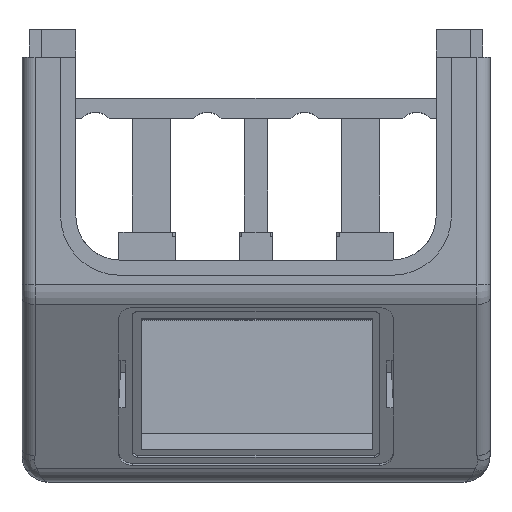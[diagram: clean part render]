
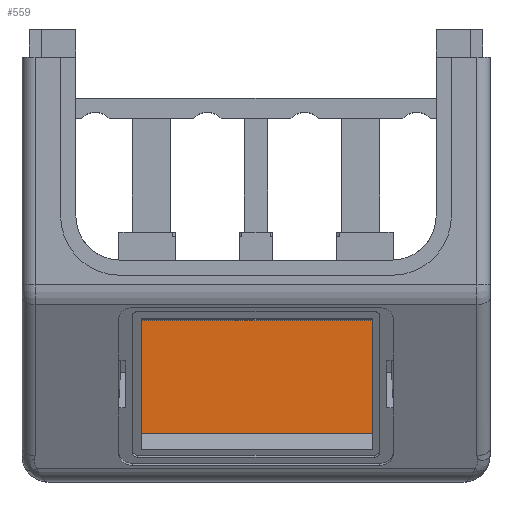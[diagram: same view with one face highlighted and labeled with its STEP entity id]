
A CAD part, top view. The second image highlights one B-rep face of the part: STEP entity #559.
In plain terms, the highlighted planar face has unit normal (0, 0, 1).
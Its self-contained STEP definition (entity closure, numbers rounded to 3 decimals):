
#42 = VERTEX_POINT('',#43);
#43 = CARTESIAN_POINT('',(-107.5,17.,165.195));
#50 = CYLINDRICAL_SURFACE('',#51,12.);
#51 = AXIS2_PLACEMENT_3D('',#52,#53,#54);
#52 = CARTESIAN_POINT('',(-95.5,17.,-6.));
#53 = DIRECTION('',(0.,0.,1.));
#54 = DIRECTION('',(-1.,-0.,0.));
#62 = PLANE('',#63);
#63 = AXIS2_PLACEMENT_3D('',#64,#65,#66);
#64 = CARTESIAN_POINT('',(-107.5,243.933,169.571));
#65 = DIRECTION('',(-1.,-0.,-0.));
#66 = DIRECTION('',(0.,0.,-1.));
#104 = VERTEX_POINT('',#105);
#105 = CARTESIAN_POINT('',(-95.5,5.,165.195));
#119 = PLANE('',#120);
#120 = AXIS2_PLACEMENT_3D('',#121,#122,#123);
#121 = CARTESIAN_POINT('',(-107.5,5.,-6.));
#122 = DIRECTION('',(0.,-1.,0.));
#123 = DIRECTION('',(0.,0.,1.));
#131 = EDGE_CURVE('',#42,#104,#132,.T.);
#132 = SURFACE_CURVE('',#133,(#138,#145),.PCURVE_S1.);
#133 = CIRCLE('',#134,12.);
#134 = AXIS2_PLACEMENT_3D('',#135,#136,#137);
#135 = CARTESIAN_POINT('',(-95.5,17.,165.195));
#136 = DIRECTION('',(0.,0.,1.));
#137 = DIRECTION('',(-1.,-0.,0.));
#138 = PCURVE('',#50,#139);
#139 = DEFINITIONAL_REPRESENTATION('',(#140),#144);
#140 = LINE('',#141,#142);
#141 = CARTESIAN_POINT('',(0.,171.195));
#142 = VECTOR('',#143,1.);
#143 = DIRECTION('',(1.,0.));
#144 = ( GEOMETRIC_REPRESENTATION_CONTEXT(2) 
PARAMETRIC_REPRESENTATION_CONTEXT() REPRESENTATION_CONTEXT('2D SPACE',''
  ) );
#145 = PCURVE('',#146,#151);
#146 = PLANE('',#147);
#147 = AXIS2_PLACEMENT_3D('',#148,#149,#150);
#148 = CARTESIAN_POINT('',(-108.5,4.,165.195));
#149 = DIRECTION('',(0.,0.,1.));
#150 = DIRECTION('',(1.,0.,-0.));
#151 = DEFINITIONAL_REPRESENTATION('',(#152),#156);
#152 = CIRCLE('',#153,12.);
#153 = AXIS2_PLACEMENT_2D('',#154,#155);
#154 = CARTESIAN_POINT('',(13.,13.));
#155 = DIRECTION('',(-1.,0.));
#156 = ( GEOMETRIC_REPRESENTATION_CONTEXT(2) 
PARAMETRIC_REPRESENTATION_CONTEXT() REPRESENTATION_CONTEXT('2D SPACE',''
  ) );
#184 = EDGE_CURVE('',#42,#185,#187,.T.);
#185 = VERTEX_POINT('',#186);
#186 = CARTESIAN_POINT('',(-107.5,79.515,165.195));
#187 = SURFACE_CURVE('',#188,(#192,#198),.PCURVE_S1.);
#188 = LINE('',#189,#190);
#189 = CARTESIAN_POINT('',(-107.5,123.966,165.195));
#190 = VECTOR('',#191,1.);
#191 = DIRECTION('',(0.,1.,0.));
#192 = PCURVE('',#62,#193);
#193 = DEFINITIONAL_REPRESENTATION('',(#194),#197);
#194 = B_SPLINE_CURVE_WITH_KNOTS('',1,(#195,#196),.UNSPECIFIED.,.F.,.F.,
  (2,2),(-106.966,-44.451),.PIECEWISE_BEZIER_KNOTS.);
#195 = CARTESIAN_POINT('',(4.376,226.933));
#196 = CARTESIAN_POINT('',(4.376,164.418));
#197 = ( GEOMETRIC_REPRESENTATION_CONTEXT(2) 
PARAMETRIC_REPRESENTATION_CONTEXT() REPRESENTATION_CONTEXT('2D SPACE',''
  ) );
#198 = PCURVE('',#146,#199);
#199 = DEFINITIONAL_REPRESENTATION('',(#200),#204);
#200 = LINE('',#201,#202);
#201 = CARTESIAN_POINT('',(1.,119.966));
#202 = VECTOR('',#203,1.);
#203 = DIRECTION('',(0.,1.));
#204 = ( GEOMETRIC_REPRESENTATION_CONTEXT(2) 
PARAMETRIC_REPRESENTATION_CONTEXT() REPRESENTATION_CONTEXT('2D SPACE',''
  ) );
#222 = PLANE('',#223);
#223 = AXIS2_PLACEMENT_3D('',#224,#225,#226);
#224 = CARTESIAN_POINT('',(-108.5,79.515,165.195));
#225 = DIRECTION('',(0.,1.,0.));
#226 = DIRECTION('',(0.,-0.,1.));
#559 = ADVANCED_FACE('',(#560),#146,.T.);
#560 = FACE_BOUND('',#561,.T.);
#561 = EDGE_LOOP('',(#562,#563,#564,#586,#615,#642));
#562 = ORIENTED_EDGE('',*,*,#184,.F.);
#563 = ORIENTED_EDGE('',*,*,#131,.T.);
#564 = ORIENTED_EDGE('',*,*,#565,.F.);
#565 = EDGE_CURVE('',#566,#104,#568,.T.);
#566 = VERTEX_POINT('',#567);
#567 = CARTESIAN_POINT('',(95.5,5.,165.195));
#568 = SURFACE_CURVE('',#569,(#573,#580),.PCURVE_S1.);
#569 = LINE('',#570,#571);
#570 = CARTESIAN_POINT('',(-108.,5.,165.195));
#571 = VECTOR('',#572,1.);
#572 = DIRECTION('',(-1.,0.,0.));
#573 = PCURVE('',#146,#574);
#574 = DEFINITIONAL_REPRESENTATION('',(#575),#579);
#575 = LINE('',#576,#577);
#576 = CARTESIAN_POINT('',(0.5,1.));
#577 = VECTOR('',#578,1.);
#578 = DIRECTION('',(-1.,0.));
#579 = ( GEOMETRIC_REPRESENTATION_CONTEXT(2) 
PARAMETRIC_REPRESENTATION_CONTEXT() REPRESENTATION_CONTEXT('2D SPACE',''
  ) );
#580 = PCURVE('',#119,#581);
#581 = DEFINITIONAL_REPRESENTATION('',(#582),#585);
#582 = B_SPLINE_CURVE_WITH_KNOTS('',1,(#583,#584),.UNSPECIFIED.,.F.,.F.,
  (2,2),(-203.5,-12.5),.PIECEWISE_BEZIER_KNOTS.);
#583 = CARTESIAN_POINT('',(171.195,-203.));
#584 = CARTESIAN_POINT('',(171.195,-12.));
#585 = ( GEOMETRIC_REPRESENTATION_CONTEXT(2) 
PARAMETRIC_REPRESENTATION_CONTEXT() REPRESENTATION_CONTEXT('2D SPACE',''
  ) );
#586 = ORIENTED_EDGE('',*,*,#587,.T.);
#587 = EDGE_CURVE('',#566,#588,#590,.T.);
#588 = VERTEX_POINT('',#589);
#589 = CARTESIAN_POINT('',(107.5,17.,165.195));
#590 = SURFACE_CURVE('',#591,(#596,#603),.PCURVE_S1.);
#591 = CIRCLE('',#592,12.);
#592 = AXIS2_PLACEMENT_3D('',#593,#594,#595);
#593 = CARTESIAN_POINT('',(95.5,17.,165.195));
#594 = DIRECTION('',(0.,0.,1.));
#595 = DIRECTION('',(1.,0.,-0.));
#596 = PCURVE('',#146,#597);
#597 = DEFINITIONAL_REPRESENTATION('',(#598),#602);
#598 = CIRCLE('',#599,12.);
#599 = AXIS2_PLACEMENT_2D('',#600,#601);
#600 = CARTESIAN_POINT('',(204.,13.));
#601 = DIRECTION('',(1.,0.));
#602 = ( GEOMETRIC_REPRESENTATION_CONTEXT(2) 
PARAMETRIC_REPRESENTATION_CONTEXT() REPRESENTATION_CONTEXT('2D SPACE',''
  ) );
#603 = PCURVE('',#604,#609);
#604 = CYLINDRICAL_SURFACE('',#605,12.);
#605 = AXIS2_PLACEMENT_3D('',#606,#607,#608);
#606 = CARTESIAN_POINT('',(95.5,17.,-6.));
#607 = DIRECTION('',(0.,0.,1.));
#608 = DIRECTION('',(1.,0.,-0.));
#609 = DEFINITIONAL_REPRESENTATION('',(#610),#614);
#610 = LINE('',#611,#612);
#611 = CARTESIAN_POINT('',(-6.283,171.195));
#612 = VECTOR('',#613,1.);
#613 = DIRECTION('',(1.,-0.));
#614 = ( GEOMETRIC_REPRESENTATION_CONTEXT(2) 
PARAMETRIC_REPRESENTATION_CONTEXT() REPRESENTATION_CONTEXT('2D SPACE',''
  ) );
#615 = ORIENTED_EDGE('',*,*,#616,.T.);
#616 = EDGE_CURVE('',#588,#617,#619,.T.);
#617 = VERTEX_POINT('',#618);
#618 = CARTESIAN_POINT('',(107.5,79.515,165.195));
#619 = SURFACE_CURVE('',#620,(#624,#631),.PCURVE_S1.);
#620 = LINE('',#621,#622);
#621 = CARTESIAN_POINT('',(107.5,123.966,165.195));
#622 = VECTOR('',#623,1.);
#623 = DIRECTION('',(0.,1.,0.));
#624 = PCURVE('',#146,#625);
#625 = DEFINITIONAL_REPRESENTATION('',(#626),#630);
#626 = LINE('',#627,#628);
#627 = CARTESIAN_POINT('',(216.,119.966));
#628 = VECTOR('',#629,1.);
#629 = DIRECTION('',(0.,1.));
#630 = ( GEOMETRIC_REPRESENTATION_CONTEXT(2) 
PARAMETRIC_REPRESENTATION_CONTEXT() REPRESENTATION_CONTEXT('2D SPACE',''
  ) );
#631 = PCURVE('',#632,#637);
#632 = PLANE('',#633);
#633 = AXIS2_PLACEMENT_3D('',#634,#635,#636);
#634 = CARTESIAN_POINT('',(107.5,243.933,169.571));
#635 = DIRECTION('',(-1.,-0.,-0.));
#636 = DIRECTION('',(0.,0.,-1.));
#637 = DEFINITIONAL_REPRESENTATION('',(#638),#641);
#638 = B_SPLINE_CURVE_WITH_KNOTS('',1,(#639,#640),.UNSPECIFIED.,.F.,.F.,
  (2,2),(-106.966,-44.451),.PIECEWISE_BEZIER_KNOTS.);
#639 = CARTESIAN_POINT('',(4.376,226.933));
#640 = CARTESIAN_POINT('',(4.376,164.418));
#641 = ( GEOMETRIC_REPRESENTATION_CONTEXT(2) 
PARAMETRIC_REPRESENTATION_CONTEXT() REPRESENTATION_CONTEXT('2D SPACE',''
  ) );
#642 = ORIENTED_EDGE('',*,*,#643,.T.);
#643 = EDGE_CURVE('',#617,#185,#644,.T.);
#644 = SURFACE_CURVE('',#645,(#649,#656),.PCURVE_S1.);
#645 = LINE('',#646,#647);
#646 = CARTESIAN_POINT('',(107.5,79.515,165.195));
#647 = VECTOR('',#648,1.);
#648 = DIRECTION('',(-1.,0.,0.));
#649 = PCURVE('',#146,#650);
#650 = DEFINITIONAL_REPRESENTATION('',(#651),#655);
#651 = LINE('',#652,#653);
#652 = CARTESIAN_POINT('',(216.,75.515));
#653 = VECTOR('',#654,1.);
#654 = DIRECTION('',(-1.,0.));
#655 = ( GEOMETRIC_REPRESENTATION_CONTEXT(2) 
PARAMETRIC_REPRESENTATION_CONTEXT() REPRESENTATION_CONTEXT('2D SPACE',''
  ) );
#656 = PCURVE('',#222,#657);
#657 = DEFINITIONAL_REPRESENTATION('',(#658),#662);
#658 = LINE('',#659,#660);
#659 = CARTESIAN_POINT('',(0.,216.));
#660 = VECTOR('',#661,1.);
#661 = DIRECTION('',(0.,-1.));
#662 = ( GEOMETRIC_REPRESENTATION_CONTEXT(2) 
PARAMETRIC_REPRESENTATION_CONTEXT() REPRESENTATION_CONTEXT('2D SPACE',''
  ) );
